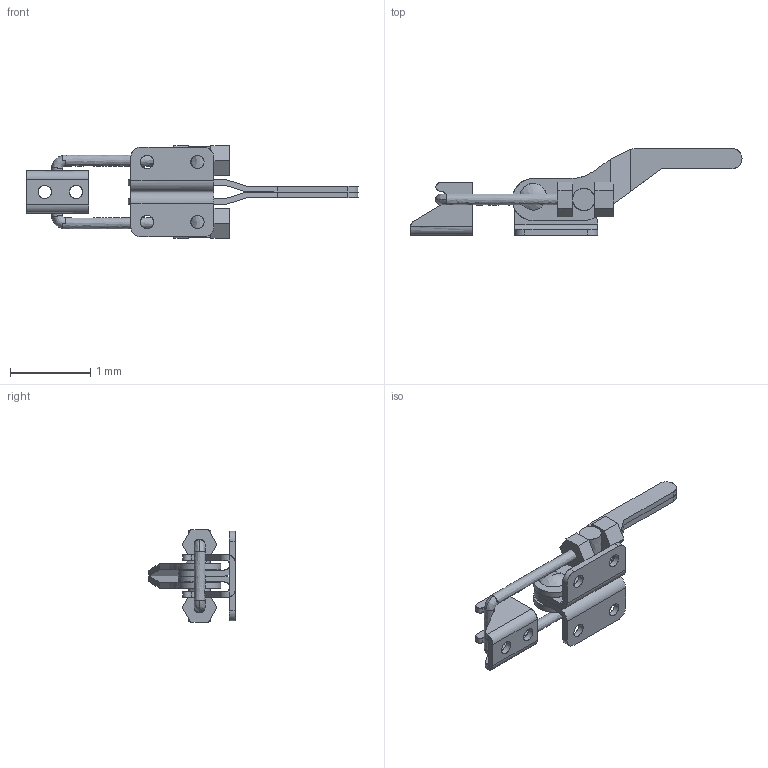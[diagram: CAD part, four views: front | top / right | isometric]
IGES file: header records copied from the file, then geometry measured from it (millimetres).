
Start section:  Autodesk DirectConnect version 7.0.27.0 ---- IGES version 5.3
Global section: file name: C:\Users\Nick\Desktop\PCU-360\3D\PCU-360.igs; native system: Autodesk DirectConnect 7.0.27.0; preprocessor: 7.0.27.0; author: Nick; organization: Unknown; date: 20150615.134739; units: millimetre
Bounding box: 4.14 x 1.08 x 1.16 mm (x, y, z)
Surface area: 18.6 mm2 (no closed solid volume)
Topology: 0 solids, 0 shells, 169 faces, 1213 edges, 1210 vertices
Faces by surface type: bspline 169
